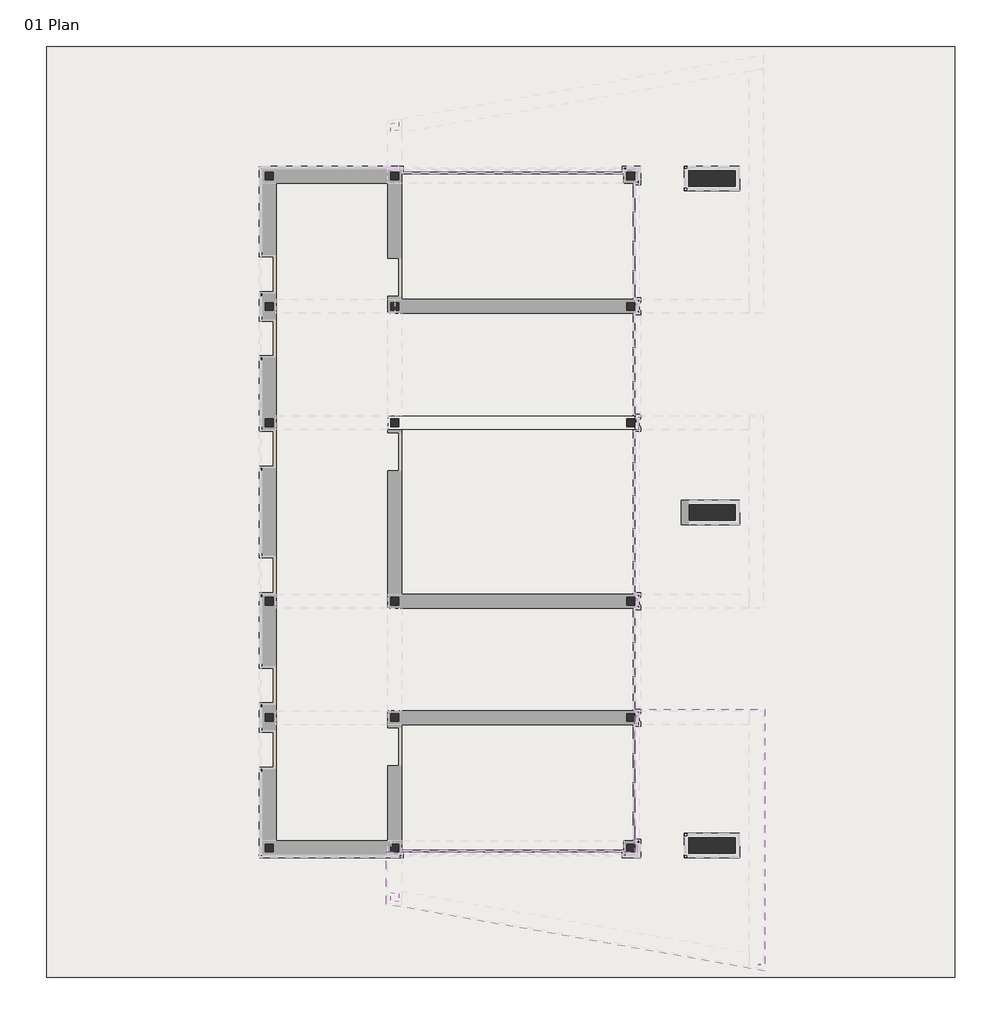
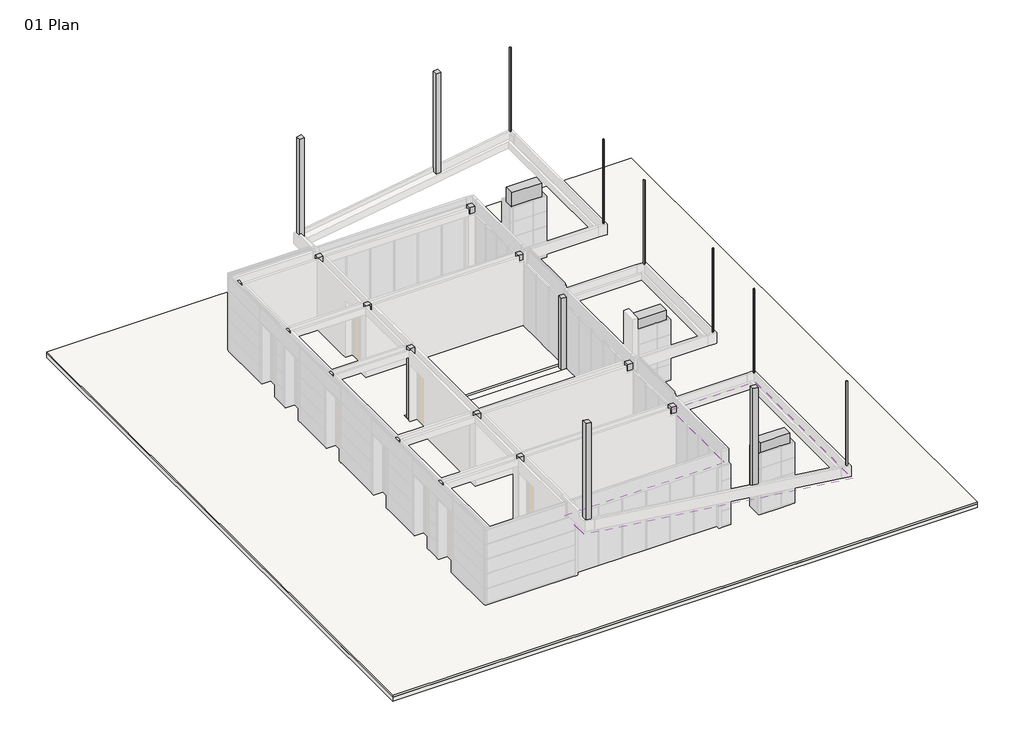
# One storey, part 5 of 5: 23 columns, 8 footings, 7 slabs, 1 covering, 1 proxy.
"""IFC4 building model written with IfcOpenShell, lengths in millimetres."""

from ifc_helpers import new_model, si_unit, frame, origin, place, context, project, spatial, polyline, outline, extrude, faceted_brep, transform, mapped, element, save
from components import generic_models_1_generic_models_1_7971c2b0, structural_columns_1_structural_columns_1_03e0f4f6, structural_columns_2_structural_columns_1_73b75508

model = new_model("IFC4")

# Units and contexts
model_context = context("Model", 3, world=origin())
ifc_project = project(units=[si_unit("LENGTHUNIT", "METRE", prefix="MILLI")], contexts=[model_context])

# Site, building, storey
site = spatial("IfcSite", under=ifc_project)
building = spatial("IfcBuilding", under=site)
storey = spatial("IfcBuildingStorey", under=building, Name="01 Plan", Elevation=-4000.0)

# Proxy
placement = place(None, origin())
generic_models_1_generic_models_1_shape = generic_models_1_generic_models_1_7971c2b0(model_context)
element("IfcBuildingElementProxy", 1, Name="Generic Models 1 : Generic Models 1", ObjectType="Generic Models 1 : Generic Models 1", at=placement, inside=storey, context=model_context, shape_type="MappedRepresentation", body=[
    mapped(generic_models_1_generic_models_1_shape, transform((0.0, 0.0, 0.0), x_axis=(1.0, 0.0, 0.0), y_axis=(0.0, 1.0, 0.0), z_axis=(0.0, 0.0, 1.0))),
])

# Columns
element("IfcColumn", 2, ObjectType="M_Concrete-Rectangular-Column : Column_Structural_Generic Showcase_250x250mm", at=placement, inside=storey, context=model_context, shape_type="Brep", body=[
    faceted_brep([(-3649.3384937, 6745.5895435, -4100.0), (-3649.3384937, 6495.5895435, -4100.0), (-3899.3384937, 6495.5895435, -4100.0), (-3899.3384937, 6745.5895435, -4100.0), (-3649.3384937, 6745.5895435, -600.0), (-3649.3384937, 6745.5895435, -300.0), (-3649.3384937, 6495.5895435, -300.0), (-3649.3384937, 6495.5895435, -600.0), (-3899.3384937, 6495.5895435, -300.0), (-3899.3384937, 6495.5895435, -600.0), (-3899.3384937, 6745.5895435, -300.0), (-3899.3384937, 6745.5895435, -600.0)], [[[0, 1, 2, 3]], [[1, 0, 4, 5, 6, 7]], [[2, 1, 7, 6, 8, 9]], [[3, 2, 9, 8, 10, 11]], [[0, 3, 11, 10, 5, 4]], [[6, 5, 10, 8]]]),
])
element("IfcColumn", 3, ObjectType="M_Concrete-Rectangular-Column : Column_Structural_Generic Showcase_250x250mm", at=placement, inside=storey, context=model_context, shape_type="Brep", body=[
    faceted_brep([(-7699.3384937, 6745.5895435, -4100.0), (-7699.3384937, 6495.5895435, -4100.0), (-7949.3384937, 6495.5895435, -4100.0), (-7949.3384937, 6745.5895435, -4100.0), (-7699.3384937, 6745.5895435, -600.0), (-7699.3384937, 6745.5895435, -300.0), (-7699.3384937, 6495.5895435, -300.0), (-7699.3384937, 6495.5895435, -600.0), (-7949.3384937, 6495.5895435, -300.0), (-7949.3384937, 6495.5895435, -600.0), (-7949.3384937, 6495.5895435, -3900.0), (-7949.3384937, 6745.5895435, -300.0), (-7949.3384937, 6745.5895435, -600.0), (-7949.3384937, 6745.5895435, -3900.0)], [[[0, 1, 2, 3]], [[1, 0, 4, 5, 6, 7]], [[2, 1, 7, 6, 8, 9, 10]], [[3, 2, 10, 9, 8, 11, 12, 13]], [[0, 3, 13, 12, 11, 5, 4]], [[6, 5, 11, 8]]]),
])
element("IfcColumn", 4, ObjectType="M_Concrete-Rectangular-Column : Column_Structural_Generic Showcase_250x250mm", at=placement, inside=storey, context=model_context, shape_type="Brep", body=[
    faceted_brep([(3950.6615063, 6745.5895435, -4100.0), (3950.6615063, 6495.5895435, -4100.0), (3700.6615063, 6495.5895435, -4100.0), (3700.6615063, 6745.5895435, -4100.0), (3950.6615063, 6745.5895435, -600.0), (3950.6615063, 6745.5895435, -300.0), (3950.6615063, 6495.5895435, -300.0), (3950.6615063, 6495.5895435, -600.0), (3700.6615063, 6495.5895435, -300.0), (3700.6615063, 6495.5895435, -600.0), (3700.6615063, 6745.5895435, -300.0), (3700.6615063, 6745.5895435, -600.0)], [[[0, 1, 2, 3]], [[1, 0, 4, 5, 6, 7]], [[2, 1, 7, 6, 8, 9]], [[3, 2, 9, 8, 10, 11]], [[0, 3, 11, 10, 5, 4]], [[6, 5, 10, 8]]]),
])
element("IfcColumn", 5, ObjectType="M_Concrete-Rectangular-Column : Column_Structural_Generic Showcase_250x250mm", at=placement, inside=storey, context=model_context, shape_type="Brep", body=[
    faceted_brep([(-3649.3384937, 10945.5895435, -4100.0), (-3649.3384937, 10695.5895435, -4100.0), (-3899.3384937, 10695.5895435, -4100.0), (-3899.3384937, 10945.5895435, -4100.0), (-3649.3384937, 10945.5895435, -3900.0), (-3649.3384937, 10945.5895435, -650.0), (-3649.3384937, 10945.5895435, -600.0), (-3649.3384937, 10945.5895435, -300.0), (-3649.3384937, 10695.5895435, -300.0), (-3649.3384937, 10695.5895435, -600.0), (-3649.3384937, 10695.5895435, -650.0), (-3899.3384937, 10695.5895435, -300.0), (-3899.3384937, 10695.5895435, -600.0), (-3899.3384937, 10695.5895435, -650.0), (-3899.3384937, 10945.5895435, -300.0), (-3899.3384937, 10945.5895435, -600.0), (-3899.3384937, 10945.5895435, -650.0), (-3899.3384937, 10945.5895435, -3900.0)], [[[0, 1, 2, 3]], [[1, 0, 4, 5, 6, 7, 8, 9, 10]], [[2, 1, 10, 9, 8, 11, 12, 13]], [[3, 2, 13, 12, 11, 14, 15, 16, 17]], [[0, 3, 17, 16, 15, 14, 7, 6, 5, 4]], [[8, 7, 14, 11]]]),
])
element("IfcColumn", 6, ObjectType="M_Concrete-Rectangular-Column : Column_Structural_Generic Showcase_250x250mm", at=placement, inside=storey, context=model_context, shape_type="Brep", body=[
    faceted_brep([(-7699.3384937, 10945.5895435, -4100.0), (-7699.3384937, 10695.5895435, -4100.0), (-7949.3384937, 10695.5895435, -4100.0), (-7949.3384937, 10945.5895435, -4100.0), (-7699.3384937, 10945.5895435, -3900.0), (-7699.3384937, 10945.5895435, -600.0), (-7699.3384937, 10945.5895435, -300.0), (-7699.3384937, 10695.5895435, -300.0), (-7699.3384937, 10695.5895435, -600.0), (-7949.3384937, 10695.5895435, -300.0), (-7949.3384937, 10695.5895435, -600.0), (-7949.3384937, 10695.5895435, -3900.0), (-7949.3384937, 10945.5895435, -300.0), (-7949.3384937, 10945.5895435, -3900.0)], [[[0, 1, 2, 3]], [[1, 0, 4, 5, 6, 7, 8]], [[2, 1, 8, 7, 9, 10, 11]], [[3, 2, 11, 10, 9, 12, 13]], [[0, 3, 13, 12, 6, 5, 4]], [[7, 6, 12, 9]]]),
])
element("IfcColumn", 7, ObjectType="M_Concrete-Rectangular-Column : Column_Structural_Generic Showcase_250x250mm", at=placement, inside=storey, context=model_context, shape_type="Brep", body=[
    faceted_brep([(3950.6615063, 10945.5895435, -4100.0), (3950.6615063, 10695.5895435, -4100.0), (3700.6615063, 10695.5895435, -4100.0), (3700.6615063, 10945.5895435, -4100.0), (3950.6615063, 10945.5895435, -4000.0), (3950.6615063, 10945.5895435, -650.0), (3950.6615063, 10945.5895435, -600.0), (3950.6615063, 10945.5895435, -300.0), (3950.6615063, 10695.5895435, -300.0), (3950.6615063, 10695.5895435, -600.0), (3950.6615063, 10695.5895435, -650.0), (3950.6615063, 10695.5895435, -4000.0), (3700.6615063, 10695.5895435, -300.0), (3700.6615063, 10695.5895435, -600.0), (3700.6615063, 10695.5895435, -650.0), (3700.6615063, 10945.5895435, -300.0), (3700.6615063, 10945.5895435, -600.0), (3700.6615063, 10945.5895435, -650.0), (3700.6615063, 10945.5895435, -4000.0)], [[[0, 1, 2, 3]], [[1, 0, 4, 5, 6, 7, 8, 9, 10, 11]], [[2, 1, 11, 10, 9, 8, 12, 13, 14]], [[3, 2, 14, 13, 12, 15, 16, 17, 18]], [[0, 3, 18, 17, 16, 15, 7, 6, 5, 4]], [[8, 7, 15, 12]]]),
])
element("IfcColumn", 8, ObjectType="M_Concrete-Rectangular-Column : Column_Structural_Generic Showcase_250x250mm", at=placement, inside=storey, context=model_context, shape_type="Brep", body=[
    faceted_brep([(-3649.3384937, 2995.5895435, -4100.0), (-3649.3384937, 2745.5895435, -4100.0), (-3899.3384937, 2745.5895435, -4100.0), (-3899.3384937, 2995.5895435, -4100.0), (-3649.3384937, 2995.5895435, -600.0), (-3649.3384937, 2995.5895435, -300.0), (-3649.3384937, 2745.5895435, -300.0), (-3649.3384937, 2745.5895435, -600.0), (-3899.3384937, 2745.5895435, -300.0), (-3899.3384937, 2745.5895435, -600.0), (-3899.3384937, 2995.5895435, -300.0), (-3899.3384937, 2995.5895435, -600.0)], [[[0, 1, 2, 3]], [[1, 0, 4, 5, 6, 7]], [[2, 1, 7, 6, 8, 9]], [[3, 2, 9, 8, 10, 11]], [[0, 3, 11, 10, 5, 4]], [[6, 5, 10, 8]]]),
])
element("IfcColumn", 9, ObjectType="M_Concrete-Rectangular-Column : Column_Structural_Generic Showcase_250x250mm", at=placement, inside=storey, context=model_context, shape_type="Brep", body=[
    faceted_brep([(-7699.3384937, 2995.5895435, -4100.0), (-7699.3384937, 2745.5895435, -4100.0), (-7949.3384937, 2745.5895435, -4100.0), (-7949.3384937, 2995.5895435, -4100.0), (-7699.3384937, 2995.5895435, -600.0), (-7699.3384937, 2995.5895435, -300.0), (-7699.3384937, 2745.5895435, -300.0), (-7699.3384937, 2745.5895435, -600.0), (-7949.3384937, 2745.5895435, -300.0), (-7949.3384937, 2745.5895435, -600.0), (-7949.3384937, 2745.5895435, -3900.0), (-7949.3384937, 2995.5895435, -300.0), (-7949.3384937, 2995.5895435, -600.0), (-7949.3384937, 2995.5895435, -3900.0)], [[[0, 1, 2, 3]], [[1, 0, 4, 5, 6, 7]], [[2, 1, 7, 6, 8, 9, 10]], [[3, 2, 10, 9, 8, 11, 12, 13]], [[0, 3, 13, 12, 11, 5, 4]], [[6, 5, 11, 8]]]),
])
element("IfcColumn", 10, ObjectType="M_Concrete-Rectangular-Column : Column_Structural_Generic Showcase_250x250mm", at=placement, inside=storey, context=model_context, shape_type="Brep", body=[
    faceted_brep([(3950.6615063, 2995.5895435, -4100.0), (3950.6615063, 2745.5895435, -4100.0), (3700.6615063, 2745.5895435, -4100.0), (3700.6615063, 2995.5895435, -4100.0), (3950.6615063, 2995.5895435, -600.0), (3950.6615063, 2995.5895435, -300.0), (3950.6615063, 2745.5895435, -300.0), (3950.6615063, 2745.5895435, -600.0), (3700.6615063, 2745.5895435, -300.0), (3700.6615063, 2745.5895435, -600.0), (3700.6615063, 2995.5895435, -300.0), (3700.6615063, 2995.5895435, -600.0)], [[[0, 1, 2, 3]], [[1, 0, 4, 5, 6, 7]], [[2, 1, 7, 6, 8, 9]], [[3, 2, 9, 8, 10, 11]], [[0, 3, 11, 10, 5, 4]], [[6, 5, 10, 8]]]),
])
element("IfcColumn", 11, ObjectType="M_Concrete-Rectangular-Column : Column_Structural_Generic Showcase_250x250mm", at=placement, inside=storey, context=model_context, shape_type="Brep", body=[
    faceted_brep([(-3649.3384937, -2754.4104565, -4100.0), (-3649.3384937, -3004.4104565, -4100.0), (-3899.3384937, -3004.4104565, -4100.0), (-3899.3384937, -2754.4104565, -4100.0), (-3649.3384937, -2754.4104565, -600.0), (-3649.3384937, -2754.4104565, -300.0), (-3649.3384937, -3004.4104565, -300.0), (-3649.3384937, -3004.4104565, -600.0), (-3899.3384937, -3004.4104565, -300.0), (-3899.3384937, -3004.4104565, -600.0), (-3899.3384937, -2754.4104565, -300.0), (-3899.3384937, -2754.4104565, -600.0)], [[[0, 1, 2, 3]], [[1, 0, 4, 5, 6, 7]], [[2, 1, 7, 6, 8, 9]], [[3, 2, 9, 8, 10, 11]], [[0, 3, 11, 10, 5, 4]], [[6, 5, 10, 8]]]),
])
element("IfcColumn", 12, ObjectType="M_Concrete-Rectangular-Column : Column_Structural_Generic Showcase_250x250mm", at=placement, inside=storey, context=model_context, shape_type="Brep", body=[
    faceted_brep([(-7699.3384937, -2754.4104565, -4100.0), (-7699.3384937, -3004.4104565, -4100.0), (-7949.3384937, -3004.4104565, -4100.0), (-7949.3384937, -2754.4104565, -4100.0), (-7699.3384937, -2754.4104565, -600.0), (-7699.3384937, -2754.4104565, -300.0), (-7699.3384937, -3004.4104565, -300.0), (-7699.3384937, -3004.4104565, -600.0), (-7949.3384937, -3004.4104565, -300.0), (-7949.3384937, -3004.4104565, -600.0), (-7949.3384937, -3004.4104565, -3900.0), (-7949.3384937, -2754.4104565, -300.0), (-7949.3384937, -2754.4104565, -600.0), (-7949.3384937, -2754.4104565, -3900.0)], [[[0, 1, 2, 3]], [[1, 0, 4, 5, 6, 7]], [[2, 1, 7, 6, 8, 9, 10]], [[3, 2, 10, 9, 8, 11, 12, 13]], [[0, 3, 13, 12, 11, 5, 4]], [[6, 5, 11, 8]]]),
])
element("IfcColumn", 13, ObjectType="M_Concrete-Rectangular-Column : Column_Structural_Generic Showcase_250x250mm", at=placement, inside=storey, context=model_context, shape_type="Brep", body=[
    faceted_brep([(3950.6615063, -2754.4104565, -4100.0), (3950.6615063, -3004.4104565, -4100.0), (3700.6615063, -3004.4104565, -4100.0), (3700.6615063, -2754.4104565, -4100.0), (3950.6615063, -2754.4104565, -650.0), (3950.6615063, -2754.4104565, -600.0), (3950.6615063, -2754.4104565, -300.0), (3950.6615063, -3004.4104565, -300.0), (3950.6615063, -3004.4104565, -600.0), (3950.6615063, -3004.4104565, -650.0), (3700.6615063, -3004.4104565, -300.0), (3700.6615063, -3004.4104565, -600.0), (3700.6615063, -3004.4104565, -650.0), (3700.6615063, -2754.4104565, -300.0), (3700.6615063, -2754.4104565, -600.0), (3700.6615063, -2754.4104565, -650.0)], [[[0, 1, 2, 3]], [[1, 0, 4, 5, 6, 7, 8, 9]], [[2, 1, 9, 8, 7, 10, 11, 12]], [[3, 2, 12, 11, 10, 13, 14, 15]], [[0, 3, 15, 14, 13, 6, 5, 4]], [[7, 6, 13, 10]]]),
])
element("IfcColumn", 14, ObjectType="M_Concrete-Rectangular-Column : Column_Structural_Generic Showcase_250x250mm", at=placement, inside=storey, context=model_context, shape_type="Brep", body=[
    faceted_brep([(-3649.3384937, -6504.4104565, -4100.0), (-3649.3384937, -6754.4104565, -4100.0), (-3899.3384937, -6754.4104565, -4100.0), (-3899.3384937, -6504.4104565, -4100.0), (-3649.3384937, -6504.4104565, -600.0), (-3649.3384937, -6504.4104565, -300.0), (-3649.3384937, -6754.4104565, -300.0), (-3649.3384937, -6754.4104565, -600.0), (-3899.3384937, -6754.4104565, -300.0), (-3899.3384937, -6754.4104565, -600.0), (-3899.3384937, -6504.4104565, -300.0), (-3899.3384937, -6504.4104565, -600.0)], [[[0, 1, 2, 3]], [[1, 0, 4, 5, 6, 7]], [[2, 1, 7, 6, 8, 9]], [[3, 2, 9, 8, 10, 11]], [[0, 3, 11, 10, 5, 4]], [[6, 5, 10, 8]]]),
])
element("IfcColumn", 15, ObjectType="M_Concrete-Rectangular-Column : Column_Structural_Generic Showcase_250x250mm", at=placement, inside=storey, context=model_context, shape_type="Brep", body=[
    faceted_brep([(-7699.3384937, -6504.4104565, -4100.0), (-7699.3384937, -6754.4104565, -4100.0), (-7949.3384937, -6754.4104565, -4100.0), (-7949.3384937, -6504.4104565, -4100.0), (-7699.3384937, -6504.4104565, -600.0), (-7699.3384937, -6504.4104565, -300.0), (-7699.3384937, -6754.4104565, -300.0), (-7699.3384937, -6754.4104565, -600.0), (-7949.3384937, -6754.4104565, -300.0), (-7949.3384937, -6754.4104565, -600.0), (-7949.3384937, -6754.4104565, -3900.0), (-7949.3384937, -6504.4104565, -300.0), (-7949.3384937, -6504.4104565, -600.0), (-7949.3384937, -6504.4104565, -3900.0)], [[[0, 1, 2, 3]], [[1, 0, 4, 5, 6, 7]], [[2, 1, 7, 6, 8, 9, 10]], [[3, 2, 10, 9, 8, 11, 12, 13]], [[0, 3, 13, 12, 11, 5, 4]], [[6, 5, 11, 8]]]),
])
element("IfcColumn", 16, ObjectType="M_Concrete-Rectangular-Column : Column_Structural_Generic Showcase_250x250mm", at=placement, inside=storey, context=model_context, shape_type="Brep", body=[
    faceted_brep([(3950.6615063, -6504.4104565, -4100.0), (3950.6615063, -6754.4104565, -4100.0), (3700.6615063, -6754.4104565, -4100.0), (3700.6615063, -6504.4104565, -4100.0), (3950.6615063, -6504.4104565, -650.0), (3950.6615063, -6504.4104565, -600.0), (3950.6615063, -6504.4104565, -300.0), (3950.6615063, -6754.4104565, -300.0), (3950.6615063, -6754.4104565, -600.0), (3950.6615063, -6754.4104565, -650.0), (3700.6615063, -6754.4104565, -300.0), (3700.6615063, -6754.4104565, -600.0), (3700.6615063, -6754.4104565, -650.0), (3700.6615063, -6504.4104565, -300.0), (3700.6615063, -6504.4104565, -600.0), (3700.6615063, -6504.4104565, -650.0)], [[[0, 1, 2, 3]], [[1, 0, 4, 5, 6, 7, 8, 9]], [[2, 1, 9, 8, 7, 10, 11, 12]], [[3, 2, 12, 11, 10, 13, 14, 15]], [[0, 3, 15, 14, 13, 6, 5, 4]], [[7, 6, 13, 10]]]),
])
element("IfcColumn", 17, ObjectType="M_Concrete-Rectangular-Column : Column_Structural_Generic Showcase_250x250mm", at=placement, inside=storey, context=model_context, shape_type="Brep", body=[
    faceted_brep([(-3649.3384937, -10704.4104565, -4100.0), (-3649.3384937, -10954.4104565, -4100.0), (-3899.3384937, -10954.4104565, -4100.0), (-3899.3384937, -10704.4104565, -4100.0), (-3649.3384937, -10704.4104565, -600.0), (-3649.3384937, -10704.4104565, -300.0), (-3649.3384937, -10954.4104565, -300.0), (-3649.3384937, -10954.4104565, -600.0), (-3649.3384937, -10954.4104565, -3900.0), (-3899.3384937, -10954.4104565, -300.0), (-3899.3384937, -10954.4104565, -600.0), (-3899.3384937, -10954.4104565, -3900.0), (-3899.3384937, -10704.4104565, -300.0), (-3899.3384937, -10704.4104565, -600.0)], [[[0, 1, 2, 3]], [[1, 0, 4, 5, 6, 7, 8]], [[2, 1, 8, 7, 6, 9, 10, 11]], [[3, 2, 11, 10, 9, 12, 13]], [[0, 3, 13, 12, 5, 4]], [[6, 5, 12, 9]]]),
])
element("IfcColumn", 18, ObjectType="M_Concrete-Rectangular-Column : Column_Structural_Generic Showcase_250x250mm", at=placement, inside=storey, context=model_context, shape_type="Brep", body=[
    faceted_brep([(-7699.3384937, -10704.4104565, -4100.0), (-7699.3384937, -10954.4104565, -4100.0), (-7949.3384937, -10954.4104565, -4100.0), (-7949.3384937, -10704.4104565, -4100.0), (-7699.3384937, -10704.4104565, -600.0), (-7699.3384937, -10704.4104565, -300.0), (-7699.3384937, -10954.4104565, -300.0), (-7699.3384937, -10954.4104565, -600.0), (-7699.3384937, -10954.4104565, -3900.0), (-7949.3384937, -10954.4104565, -300.0), (-7949.3384937, -10954.4104565, -3900.0), (-7949.3384937, -10704.4104565, -300.0), (-7949.3384937, -10704.4104565, -600.0), (-7949.3384937, -10704.4104565, -3900.0)], [[[0, 1, 2, 3]], [[1, 0, 4, 5, 6, 7, 8]], [[2, 1, 8, 7, 6, 9, 10]], [[3, 2, 10, 9, 11, 12, 13]], [[0, 3, 13, 12, 11, 5, 4]], [[6, 5, 11, 9]]]),
])
element("IfcColumn", 19, ObjectType="M_Concrete-Rectangular-Column : Column_Structural_Generic Showcase_250x250mm", at=placement, inside=storey, context=model_context, shape_type="Brep", body=[
    faceted_brep([(3950.6615063, -10704.4104565, -4100.0), (3950.6615063, -10954.4104565, -4100.0), (3700.6615063, -10954.4104565, -4100.0), (3700.6615063, -10704.4104565, -4100.0), (3950.6615063, -10704.4104565, -748.2), (3950.6615063, -10704.4104565, -698.2), (3950.6615063, -10704.4104565, -650.0), (3950.6615063, -10704.4104565, -600.0), (3950.6615063, -10704.4104565, -300.0), (3950.6615063, -10954.4104565, -300.0), (3950.6615063, -10954.4104565, -600.0), (3950.6615063, -10954.4104565, -650.0), (3950.6615063, -10954.4104565, -698.2), (3950.6615063, -10954.4104565, -748.2), (3700.6615063, -10954.4104565, -300.0), (3700.6615063, -10954.4104565, -600.0), (3700.6615063, -10954.4104565, -650.0), (3700.6615063, -10954.4104565, -698.2), (3700.6615063, -10954.4104565, -748.2), (3700.6615063, -10704.4104565, -300.0), (3700.6615063, -10704.4104565, -600.0), (3700.6615063, -10704.4104565, -650.0)], [[[0, 1, 2, 3]], [[1, 0, 4, 5, 6, 7, 8, 9, 10, 11, 12, 13]], [[2, 1, 13, 12, 11, 10, 9, 14, 15, 16, 17, 18]], [[3, 2, 18, 17, 16, 15, 14, 19, 20, 21]], [[0, 3, 21, 20, 19, 8, 7, 6, 5, 4]], [[9, 8, 19, 14]]]),
])
element("IfcColumn", 20, ObjectType="M_Concrete-Rectangular-Column : Column_Structural_Generic Showcase_1500x500mm", at=placement, inside=storey, context=model_context, shape_type="Brep", body=[
    faceted_brep([(7200.6615063, 233.0895435, -4000.0), (7200.6615063, -266.9104565, -4000.0), (5700.6615063, -266.9104565, -4000.0), (5700.6615063, 233.0895435, -4000.0), (7200.6615063, 233.0895435, -748.2), (7200.6615063, 233.0895435, -698.2), (7200.6615063, 233.0895435, -300.0), (7200.6615063, -266.9104565, -300.0), (7200.6615063, -266.9104565, -698.2), (7200.6615063, -266.9104565, -748.2), (5700.6615063, -266.9104565, -300.0), (5700.6615063, -266.9104565, -698.2), (5700.6615063, -266.9104565, -748.2), (5700.6615063, 233.0895435, -300.0), (5700.6615063, 233.0895435, -698.2), (5700.6615063, 233.0895435, -748.2)], [[[0, 1, 2, 3]], [[1, 0, 4, 5, 6, 7, 8, 9]], [[2, 1, 9, 8, 7, 10, 11, 12]], [[3, 2, 12, 11, 10, 13, 14, 15]], [[0, 3, 15, 14, 13, 6, 5, 4]], [[7, 6, 13, 10]]]),
])
element("IfcColumn", 21, ObjectType="M_Concrete-Rectangular-Column : Column_Structural_Generic Showcase_1500x500mm", at=placement, inside=storey, context=model_context, shape_type="Brep", body=[
    faceted_brep([(7200.6615063, 11000.5895435, -4000.0), (7200.6615063, 10500.5895435, -4000.0), (5700.6615063, 10500.5895435, -4000.0), (5700.6615063, 11000.5895435, -4000.0), (7200.6615063, 11000.5895435, -748.2), (7200.6615063, 11000.5895435, -698.2), (7200.6615063, 11000.5895435, -100.0), (7200.6615063, 10500.5895435, -100.0), (7200.6615063, 10500.5895435, -698.2), (7200.6615063, 10500.5895435, -748.2), (5700.6615063, 10500.5895435, -100.0), (5700.6615063, 10500.5895435, -698.2), (5700.6615063, 10500.5895435, -748.2), (5700.6615063, 11000.5895435, -100.0), (5700.6615063, 11000.5895435, -698.2), (5700.6615063, 11000.5895435, -748.2)], [[[0, 1, 2, 3]], [[1, 0, 4, 5, 6, 7, 8, 9]], [[2, 1, 9, 8, 7, 10, 11, 12]], [[3, 2, 12, 11, 10, 13, 14, 15]], [[0, 3, 15, 14, 13, 6, 5, 4]], [[7, 6, 13, 10]]]),
])
element("IfcColumn", 22, ObjectType="M_Concrete-Rectangular-Column : Column_Structural_Generic Showcase_1500x500mm", at=placement, inside=storey, context=model_context, shape_type="SweptSolid", body=[
    extrude(outline(polyline([(7200.6615063, -10504.4104565), (7200.6615063, -11004.4104565), (5700.6615063, -11004.4104565), (5700.6615063, -10504.4104565), (7200.6615063, -10504.4104565)])), frame((0.0, 0.0, -4000.0), z_axis=(0.0, 0.0, 1.0), x_axis=(1.0, 0.0, 0.0)), (0.0, 0.0, 1.0), 3700.0),
])
structural_columns_1_structural_columns_1_shape = structural_columns_1_structural_columns_1_03e0f4f6(model_context)
element("IfcColumn", 23, ObjectType="Structural Columns 1 : Structural Columns 1", at=placement, inside=storey, context=model_context, shape_type="MappedRepresentation", body=[
    mapped(structural_columns_1_structural_columns_1_shape, transform((0.0, 0.0, 0.0), x_axis=(1.0, 0.0, 0.0), y_axis=(0.0, 1.0, 0.0), z_axis=(0.0, 0.0, 1.0))),
])
structural_columns_2_structural_columns_1_shape = structural_columns_2_structural_columns_1_73b75508(model_context)
element("IfcColumn", 24, ObjectType="Structural Columns 2 : Structural Columns 1", at=placement, inside=storey, context=model_context, shape_type="MappedRepresentation", body=[
    mapped(structural_columns_2_structural_columns_1_shape, transform((0.0, 0.0, 0.0), x_axis=(1.0, 0.0, 0.0), y_axis=(0.0, 1.0, 0.0), z_axis=(0.0, 0.0, 1.0))),
])

# Covering
element("IfcCovering", 25, ObjectType="Ceiling_Exterior_Showcase Project_50mm", at=placement, inside=storey, context=model_context, shape_type="Brep", body=[
    faceted_brep([(8150.6615063, 14788.7336897, -698.2), (-4049.3384937, 12637.5445251, -698.2), (-4049.3384937, 10945.5895435, -698.2), (3950.6615063, 10945.5895435, -698.2), (3950.6615063, 6345.5895435, -698.2), (8150.6615063, 6345.5895435, -698.2), (7200.6615063, 11000.5895435, -698.2), (7200.6615063, 10500.5895435, -698.2), (5700.6615063, 10500.5895435, -698.2), (5700.6615063, 11000.5895435, -698.2), (-4049.3384937, 12637.5445251, -748.2), (8150.6615063, 14788.7336897, -748.2), (8150.6615063, 6345.5895435, -748.2), (3950.6615063, 6345.5895435, -748.2), (3950.6615063, 10945.5895435, -748.2), (-4049.3384937, 10945.5895435, -748.2), (7200.6615063, 10500.5895435, -748.2), (7200.6615063, 11000.5895435, -748.2), (5700.6615063, 11000.5895435, -748.2), (5700.6615063, 10500.5895435, -748.2)], [[[0, 1, 2, 3, 4, 5], [6, 7, 8, 9]], [[10, 11, 12, 13, 14, 15], [16, 17, 18, 19]], [[1, 0, 11, 10]], [[2, 1, 10, 15]], [[3, 2, 15, 14]], [[4, 3, 14, 13]], [[5, 4, 13, 12]], [[0, 5, 12, 11]], [[16, 7, 6, 17]], [[7, 16, 19, 8]], [[8, 19, 18, 9]], [[9, 18, 17, 6]]]),
    faceted_brep([(8150.6615063, -14797.5546027, -698.2), (8150.6615063, -6354.4104565, -698.2), (3950.6615063, -6354.4104565, -698.2), (3950.6615063, -10604.4104565, -698.2), (3950.6615063, -10704.4104565, -698.2), (3950.6615063, -10954.4104565, -698.2), (3700.6615063, -10954.4104565, -698.2), (3600.6615063, -10954.4104565, -698.2), (-4049.3384937, -10954.4104565, -698.2), (-4049.3384937, -12646.3654381, -698.2), (8150.6615063, -6354.4104565, -748.2), (8150.6615063, -14797.5546027, -748.2), (-4049.3384937, -12646.3654381, -748.2), (-4049.3384937, -10954.4104565, -748.2), (3600.6615063, -10954.4104565, -748.2), (3700.6615063, -10954.4104565, -748.2), (3950.6615063, -10954.4104565, -748.2), (3950.6615063, -10704.4104565, -748.2), (3950.6615063, -10604.4104565, -748.2), (3950.6615063, -6354.4104565, -748.2)], [[[0, 1, 2, 3, 4, 5, 6, 7, 8, 9]], [[10, 11, 12, 13, 14, 15, 16, 17, 18, 19]], [[1, 0, 11, 10]], [[2, 1, 10, 19]], [[5, 4, 3, 2, 19, 18, 17, 16]], [[8, 7, 6, 5, 16, 15, 14, 13]], [[9, 8, 13, 12]], [[0, 9, 12, 11]]]),
    faceted_brep([(3950.6615063, -3155.2115073, -698.2), (8150.6615063, -3155.2115073, -698.2), (8150.6615063, 3146.3905943, -698.2), (3950.6615063, 3146.3905943, -698.2), (7200.6615063, 233.0895435, -698.2), (7200.6615063, -266.9104565, -698.2), (5700.6615063, -266.9104565, -698.2), (5700.6615063, 233.0895435, -698.2), (8150.6615063, -3155.2115073, -748.2), (3950.6615063, -3155.2115073, -748.2), (3950.6615063, 3146.3905943, -748.2), (8150.6615063, 3146.3905943, -748.2), (7200.6615063, -266.9104565, -748.2), (7200.6615063, 233.0895435, -748.2), (5700.6615063, 233.0895435, -748.2), (5700.6615063, -266.9104565, -748.2)], [[[0, 1, 2, 3], [4, 5, 6, 7]], [[8, 9, 10, 11], [12, 13, 14, 15]], [[1, 0, 9, 8]], [[2, 1, 8, 11]], [[3, 2, 11, 10]], [[0, 3, 10, 9]], [[12, 5, 4, 13]], [[5, 12, 15, 6]], [[6, 15, 14, 7]], [[7, 14, 13, 4]]]),
])

# Footings
element("IfcFooting", 26, ObjectType="Foundation_Strip_Generic Showcase_1000x700mm", at=placement, inside=storey, context=model_context, shape_type="Brep", body=[
    faceted_brep([(4375.6615063, -10379.4104565, -4700.0), (3375.6615063, -10379.4104565, -4700.0), (-7374.3384937, -10379.4104565, -4700.0), (-8374.3384937, -10379.4104565, -4700.0), (-8374.3384937, -11379.4104565, -4700.0), (4375.6615063, -11379.4104565, -4700.0), (4375.6615063, -11379.4104565, -5400.0), (-8374.3384937, -11379.4104565, -5400.0), (4375.6615063, -10379.4104565, -5400.0), (-8374.3384937, -10379.4104565, -5400.0), (-7374.3384937, -10379.4104565, -5400.0), (3375.6615063, -10379.4104565, -5400.0)], [[[0, 1, 2, 3, 4, 5]], [[6, 5, 4, 7]], [[8, 6, 7, 9, 10, 11]], [[0, 8, 11, 10, 9, 3, 2, 1]], [[0, 5, 6, 8]], [[4, 3, 9, 7]]]),
])
element("IfcFooting", 27, ObjectType="Foundation_Strip_Generic Showcase_1000x700mm", at=placement, inside=storey, context=model_context, shape_type="Brep", body=[
    faceted_brep([(-7374.3384937, 11370.5895435, -4700.0), (-8374.3384937, 11370.5895435, -4700.0), (-8374.3384937, -10379.4104565, -4700.0), (-7374.3384937, -10379.4104565, -4700.0), (-7374.3384937, -7129.4104565, -4700.0), (-7374.3384937, -6129.4104565, -4700.0), (-7374.3384937, -3379.4104565, -4700.0), (-7374.3384937, -2379.4104565, -4700.0), (-7374.3384937, 2370.5895435, -4700.0), (-7374.3384937, 3370.5895435, -4700.0), (-7374.3384937, 6120.5895435, -4700.0), (-7374.3384937, 7120.5895435, -4700.0), (-7374.3384937, 10370.5895435, -4700.0), (-8374.3384937, 11370.5895435, -5400.0), (-8374.3384937, -10379.4104565, -5400.0), (-7374.3384937, 11370.5895435, -5400.0), (-7374.3384937, 10370.5895435, -5400.0), (-7374.3384937, 7120.5895435, -5400.0), (-7374.3384937, 6120.5895435, -5400.0), (-7374.3384937, 3370.5895435, -5400.0), (-7374.3384937, 2370.5895435, -5400.0), (-7374.3384937, -2379.4104565, -5400.0), (-7374.3384937, -3379.4104565, -5400.0), (-7374.3384937, -6129.4104565, -5400.0), (-7374.3384937, -7129.4104565, -5400.0), (-7374.3384937, -10379.4104565, -5400.0)], [[[0, 1, 2, 3, 4, 5, 6, 7, 8, 9, 10, 11, 12]], [[1, 13, 14, 2]], [[13, 15, 16, 17, 18, 19, 20, 21, 22, 23, 24, 25, 14]], [[15, 0, 12, 11, 10, 9, 8, 7, 6, 5, 4, 3, 25, 24, 23, 22, 21, 20, 19, 18, 17, 16]], [[3, 2, 14, 25]], [[1, 0, 15, 13]]]),
])
element("IfcFooting", 28, ObjectType="Foundation_Strip_Generic Showcase_1000x700mm", at=placement, inside=storey, context=model_context, shape_type="SweptSolid", body=[
    extrude(outline(polyline([(-7374.3384937, -3379.4104565), (-7374.3384937, -2379.4104565), (3375.6615063, -2379.4104565), (3375.6615063, -3379.4104565), (-7374.3384937, -3379.4104565)])), frame((0.0, 0.0, -5400.0), z_axis=(0.0, 0.0, 1.0), x_axis=(1.0, 0.0, 0.0)), (0.0, 0.0, 1.0), 700.0),
])
element("IfcFooting", 29, ObjectType="Foundation_Strip_Generic Showcase_1000x700mm", at=placement, inside=storey, context=model_context, shape_type="SweptSolid", body=[
    extrude(outline(polyline([(-7374.3384937, 2370.5895435), (-7374.3384937, 3370.5895435), (3375.6615063, 3370.5895435), (3375.6615063, 2370.5895435), (-7374.3384937, 2370.5895435)])), frame((0.0, 0.0, -5400.0), z_axis=(0.0, 0.0, 1.0), x_axis=(1.0, 0.0, 0.0)), (0.0, 0.0, 1.0), 700.0),
])
element("IfcFooting", 30, ObjectType="Foundation_Strip_Generic Showcase_1000x700mm", at=placement, inside=storey, context=model_context, shape_type="Brep", body=[
    faceted_brep([(4375.6615063, 10370.5895435, -4700.0), (4375.6615063, 11370.5895435, -4700.0), (-7374.3384937, 11370.5895435, -4700.0), (-7374.3384937, 10370.5895435, -4700.0), (3375.6615063, 10370.5895435, -4700.0), (4375.6615063, 11370.5895435, -5400.0), (-7374.3384937, 11370.5895435, -5400.0), (4375.6615063, 10370.5895435, -5400.0), (3375.6615063, 10370.5895435, -5400.0), (-7374.3384937, 10370.5895435, -5400.0)], [[[0, 1, 2, 3, 4]], [[1, 5, 6, 2]], [[5, 7, 8, 9, 6]], [[7, 0, 4, 3, 9, 8]], [[1, 0, 7, 5]], [[3, 2, 6, 9]]]),
])
element("IfcFooting", 31, ObjectType="Foundation_Strip_Generic Showcase_1000x700mm", at=placement, inside=storey, context=model_context, shape_type="Brep", body=[
    faceted_brep([(3375.6615063, -10379.4104565, -4700.0), (4375.6615063, -10379.4104565, -4700.0), (4375.6615063, 10370.5895435, -4700.0), (3375.6615063, 10370.5895435, -4700.0), (3375.6615063, 7120.5895435, -4700.0), (3375.6615063, 6120.5895435, -4700.0), (3375.6615063, 3370.5895435, -4700.0), (3375.6615063, 2370.5895435, -4700.0), (3375.6615063, -2379.4104565, -4700.0), (3375.6615063, -3379.4104565, -4700.0), (3375.6615063, -6129.4104565, -4700.0), (3375.6615063, -7129.4104565, -4700.0), (4375.6615063, -10379.4104565, -5400.0), (4375.6615063, 10370.5895435, -5400.0), (3375.6615063, -10379.4104565, -5400.0), (3375.6615063, -7129.4104565, -5400.0), (3375.6615063, -6129.4104565, -5400.0), (3375.6615063, -3379.4104565, -5400.0), (3375.6615063, -2379.4104565, -5400.0), (3375.6615063, 2370.5895435, -5400.0), (3375.6615063, 3370.5895435, -5400.0), (3375.6615063, 6120.5895435, -5400.0), (3375.6615063, 7120.5895435, -5400.0), (3375.6615063, 10370.5895435, -5400.0)], [[[0, 1, 2, 3, 4, 5, 6, 7, 8, 9, 10, 11]], [[1, 12, 13, 2]], [[12, 14, 15, 16, 17, 18, 19, 20, 21, 22, 23, 13]], [[14, 0, 11, 10, 9, 8, 7, 6, 5, 4, 3, 23, 22, 21, 20, 19, 18, 17, 16, 15]], [[1, 0, 14, 12]], [[3, 2, 13, 23]]]),
])
element("IfcFooting", 32, ObjectType="Foundation_Strip_Generic Showcase_1000x700mm", at=placement, inside=storey, context=model_context, shape_type="SweptSolid", body=[
    extrude(outline(polyline([(-7374.3384937, -7129.4104565), (-7374.3384937, -6129.4104565), (3375.6615063, -6129.4104565), (3375.6615063, -7129.4104565), (-7374.3384937, -7129.4104565)])), frame((0.0, 0.0, -5400.0), z_axis=(0.0, 0.0, 1.0), x_axis=(1.0, 0.0, 0.0)), (0.0, 0.0, 1.0), 700.0),
])
element("IfcFooting", 33, ObjectType="Foundation_Strip_Generic Showcase_1000x700mm", at=placement, inside=storey, context=model_context, shape_type="SweptSolid", body=[
    extrude(outline(polyline([(-7374.3384937, 6120.5895435), (-7374.3384937, 7120.5895435), (3375.6615063, 7120.5895435), (3375.6615063, 6120.5895435), (-7374.3384937, 6120.5895435)])), frame((0.0, 0.0, -5400.0), z_axis=(0.0, 0.0, 1.0), x_axis=(1.0, 0.0, 0.0)), (0.0, 0.0, 1.0), 700.0),
])

# Slabs
element("IfcSlab", 34, ObjectType="Floor_Structural_Generic Showcase_200mm", at=placement, inside=storey, context=model_context, shape_type="Brep", body=[
    faceted_brep([(-8049.3384937, -11054.4104565, -4300.0), (-8049.3384937, 11045.5895435, -4300.0), (3950.6615063, 11045.5895435, -4300.0), (3950.6615063, -11054.4104565, -4300.0), (-8049.3384937, -11054.4104565, -4100.0), (3950.6615063, -11054.4104565, -4100.0), (3950.6615063, -10954.4104565, -4100.0), (3950.6615063, -10704.4104565, -4100.0), (3950.6615063, -6754.4104565, -4100.0), (3950.6615063, -6504.4104565, -4100.0), (3950.6615063, -3004.4104565, -4100.0), (3950.6615063, -2754.4104565, -4100.0), (3950.6615063, 2745.5895435, -4100.0), (3950.6615063, 2995.5895435, -4100.0), (3950.6615063, 6495.5895435, -4100.0), (3950.6615063, 6745.5895435, -4100.0), (3950.6615063, 10595.5895435, -4100.0), (3950.6615063, 10695.5895435, -4100.0), (3950.6615063, 10945.5895435, -4100.0), (3950.6615063, 11045.5895435, -4100.0), (-8049.3384937, 11045.5895435, -4100.0)], [[[0, 1, 2, 3]], [[4, 5, 6, 7, 8, 9, 10, 11, 12, 13, 14, 15, 16, 17, 18, 19, 20]], [[1, 0, 4, 20]], [[2, 1, 20, 19]], [[3, 2, 19, 18, 17, 16, 15, 14, 13, 12, 11, 10, 9, 8, 7, 6, 5]], [[0, 3, 5, 4]]]),
])
element("IfcSlab", 35, ObjectType="Floor_Structural_Generic Showcase_200mm", at=placement, inside=storey, context=model_context, shape_type="Brep", body=[
    faceted_brep([(14275.6615063, 14995.5895435, -4300.0), (14275.6615063, -15004.4104565, -4300.0), (-14999.3384937, -15004.4104565, -4300.0), (-14999.3384937, 14995.5895435, -4300.0), (-8049.3384937, -11054.4104565, -4300.0), (3950.6615063, -11054.4104565, -4300.0), (3950.6615063, 11045.5895435, -4300.0), (-8049.3384937, 11045.5895435, -4300.0), (14275.6615063, -15004.4104565, -4100.0), (14275.6615063, 14995.5895435, -4100.0), (-14999.3384937, 14995.5895435, -4100.0), (-14999.3384937, -15004.4104565, -4100.0), (3950.6615063, -11054.4104565, -4100.0), (-8049.3384937, -11054.4104565, -4100.0), (-8049.3384937, 11045.5895435, -4100.0), (3950.6615063, 11045.5895435, -4100.0), (3950.6615063, 10945.5895435, -4100.0), (3950.6615063, -10704.4104565, -4100.0), (3950.6615063, -10954.4104565, -4100.0)], [[[0, 1, 2, 3], [4, 5, 6, 7]], [[8, 9, 10, 11], [12, 13, 14, 15, 16, 17, 18]], [[5, 4, 13, 12]], [[6, 5, 12, 18, 17, 16, 15]], [[7, 6, 15, 14]], [[4, 7, 14, 13]], [[1, 0, 9, 8]], [[2, 1, 8, 11]], [[3, 2, 11, 10]], [[0, 3, 10, 9]]]),
])
element("IfcSlab", 36, ObjectType="Floor_Layers_Generic Showcase_100mm", at=placement, inside=storey, context=model_context, shape_type="SweptSolid", body=[
    extrude(outline(polyline([(-3549.3384937, 6845.5895435), (-3549.3384937, 10895.5895435), (3600.6615063, 10895.5895435), (3600.6615063, 10595.5895435), (3900.6615063, 10595.5895435), (3900.6615063, 6845.5895435), (-3549.3384937, 6845.5895435)])), frame((0.0, 0.0, -4100.0), z_axis=(0.0, 0.0, 1.0), x_axis=(1.0, 0.0, 0.0)), (0.0, 0.0, 1.0), 100.0),
])
element("IfcSlab", 37, ObjectType="Floor_Layers_Generic Showcase_100mm", at=placement, inside=storey, context=model_context, shape_type="SweptSolid", body=[
    extrude(outline(polyline([(3900.6615063, 2645.5895435), (3900.6615063, -2654.4104565), (-3549.3384937, -2654.4104565), (-3549.3384937, 2645.5895435), (3900.6615063, 2645.5895435)])), frame((0.0, 0.0, -4100.0), z_axis=(0.0, 0.0, 1.0), x_axis=(1.0, 0.0, 0.0)), (0.0, 0.0, 1.0), 100.0),
])
element("IfcSlab", 38, ObjectType="Floor_Layers_Generic Showcase_100mm", at=placement, inside=storey, context=model_context, shape_type="SweptSolid", body=[
    extrude(outline(polyline([(3900.6615063, -6854.4104565), (3900.6615063, -10604.4104565), (3600.6615063, -10604.4104565), (3600.6615063, -10904.4104565), (-3549.3384937, -10904.4104565), (-3549.3384937, -6854.4104565), (3900.6615063, -6854.4104565)])), frame((0.0, 0.0, -4100.0), z_axis=(0.0, 0.0, 1.0), x_axis=(1.0, 0.0, 0.0)), (0.0, 0.0, 1.0), 100.0),
])
element("IfcSlab", 39, ObjectType="Floor_Layers_Generic Showcase_100mm", at=placement, inside=storey, context=model_context, shape_type="Brep", body=[
    faceted_brep([(-3999.3384937, 10595.5895435, -4100.0), (-3999.3384937, 8165.5895435, -4100.0), (-3549.3384937, 8165.5895435, -4100.0), (-3549.3384937, 6945.5895435, -4100.0), (-3999.3384937, 6945.5895435, -4100.0), (-3999.3384937, 6845.5895435, -4100.0), (-3999.3384937, 6395.5895435, -4100.0), (3900.6615063, 6395.5895435, -4100.0), (3900.6615063, 3095.5895435, -4100.0), (-3999.3384937, 3095.5895435, -4100.0), (-3999.3384937, 2645.5895435, -4100.0), (-3999.3384937, 2545.5895435, -4100.0), (-3549.3384937, 2545.5895435, -4100.0), (-3549.3384937, 1325.5895435, -4100.0), (-3999.3384937, 1325.5895435, -4100.0), (-3999.3384937, -2654.4104565, -4100.0), (-3999.3384937, -3104.4104565, -4100.0), (3900.6615063, -3104.4104565, -4100.0), (3900.6615063, -6404.4104565, -4100.0), (-3999.3384937, -6404.4104565, -4100.0), (-3999.3384937, -6854.4104565, -4100.0), (-3999.3384937, -6954.4104565, -4100.0), (-3549.3384937, -6954.4104565, -4100.0), (-3549.3384937, -8174.4104565, -4100.0), (-3999.3384937, -8174.4104565, -4100.0), (-3999.3384937, -10604.4104565, -4100.0), (-7599.3384937, -10604.4104565, -4100.0), (-7599.3384937, -8274.4104565, -4100.0), (-7599.3384937, -7054.4104565, -4100.0), (-7599.3384937, -6204.4104565, -4100.0), (-7599.3384937, -4984.4104565, -4100.0), (-7599.3384937, -2654.4104565, -4100.0), (-7599.3384937, -1434.4104565, -4100.0), (-7599.3384937, 1425.5895435, -4100.0), (-7599.3384937, 2645.5895435, -4100.0), (-7599.3384937, 4975.5895435, -4100.0), (-7599.3384937, 6195.5895435, -4100.0), (-7599.3384937, 7045.5895435, -4100.0), (-7599.3384937, 8265.5895435, -4100.0), (-7599.3384937, 10595.5895435, -4100.0), (-3999.3384937, 8165.5895435, -4000.0), (-3999.3384937, 10595.5895435, -4000.0), (-7599.3384937, 10595.5895435, -4000.0), (-7599.3384937, 8265.5895435, -4000.0), (-7599.3384937, 7045.5895435, -4000.0), (-7599.3384937, 6195.5895435, -4000.0), (-7599.3384937, 4975.5895435, -4000.0), (-7599.3384937, 2645.5895435, -4000.0), (-7599.3384937, 1425.5895435, -4000.0), (-7599.3384937, -1434.4104565, -4000.0), (-7599.3384937, -2654.4104565, -4000.0), (-7599.3384937, -4984.4104565, -4000.0), (-7599.3384937, -6204.4104565, -4000.0), (-7599.3384937, -7054.4104565, -4000.0), (-7599.3384937, -8274.4104565, -4000.0), (-7599.3384937, -10604.4104565, -4000.0), (-3999.3384937, -10604.4104565, -4000.0), (-3999.3384937, -8174.4104565, -4000.0), (-3549.3384937, -8174.4104565, -4000.0), (-3549.3384937, -6954.4104565, -4000.0), (-3999.3384937, -6954.4104565, -4000.0), (-3999.3384937, -6404.4104565, -4000.0), (3900.6615063, -6404.4104565, -4000.0), (3900.6615063, -3104.4104565, -4000.0), (-3999.3384937, -3104.4104565, -4000.0), (-3999.3384937, 1325.5895435, -4000.0), (-3549.3384937, 1325.5895435, -4000.0), (-3549.3384937, 2545.5895435, -4000.0), (-3999.3384937, 2545.5895435, -4000.0), (-3999.3384937, 3095.5895435, -4000.0), (3900.6615063, 3095.5895435, -4000.0), (3900.6615063, 6395.5895435, -4000.0), (-3999.3384937, 6395.5895435, -4000.0), (-3999.3384937, 6945.5895435, -4000.0), (-3549.3384937, 6945.5895435, -4000.0), (-3549.3384937, 8165.5895435, -4000.0)], [[[0, 1, 2, 3, 4, 5, 6, 7, 8, 9, 10, 11, 12, 13, 14, 15, 16, 17, 18, 19, 20, 21, 22, 23, 24, 25, 26, 27, 28, 29, 30, 31, 32, 33, 34, 35, 36, 37, 38, 39]], [[40, 41, 42, 43, 44, 45, 46, 47, 48, 49, 50, 51, 52, 53, 54, 55, 56, 57, 58, 59, 60, 61, 62, 63, 64, 65, 66, 67, 68, 69, 70, 71, 72, 73, 74, 75]], [[1, 0, 41, 40]], [[7, 6, 72, 71]], [[8, 7, 71, 70]], [[9, 8, 70, 69]], [[11, 10, 9, 69, 68]], [[17, 16, 64, 63]], [[18, 17, 63, 62]], [[19, 18, 62, 61]], [[21, 20, 19, 61, 60]], [[26, 25, 56, 55]], [[26, 55, 54, 53, 52, 51, 50, 49, 48, 47, 46, 45, 44, 43, 42, 39, 38, 37, 36, 35, 34, 33, 32, 31, 30, 29, 28, 27]], [[0, 39, 42, 41]], [[2, 1, 40, 75]], [[3, 2, 75, 74]], [[4, 3, 74, 73]], [[6, 5, 4, 73, 72]], [[22, 21, 60, 59]], [[23, 22, 59, 58]], [[24, 23, 58, 57]], [[25, 24, 57, 56]], [[12, 11, 68, 67]], [[13, 12, 67, 66]], [[14, 13, 66, 65]], [[16, 15, 14, 65, 64]]]),
])
element("IfcSlab", 40, ObjectType="Floor_Layers_Generic Showcase_100mm", at=placement, inside=storey, context=model_context, shape_type="Brep", body=[
    faceted_brep([(14275.6615063, 14995.5895435, -4100.0), (14275.6615063, -15004.4104565, -4100.0), (-14999.3384937, -15004.4104565, -4100.0), (-14999.3384937, 14995.5895435, -4100.0), (-7949.3384937, 8265.5895435, -4100.0), (-7599.3384937, 8265.5895435, -4100.0), (-7599.3384937, 7045.5895435, -4100.0), (-7949.3384937, 7045.5895435, -4100.0), (-7949.3384937, 6745.5895435, -4100.0), (-7949.3384937, 6495.5895435, -4100.0), (-7949.3384937, 6195.5895435, -4100.0), (-7699.3384937, 6195.5895435, -4100.0), (-7599.3384937, 6195.5895435, -4100.0), (-7599.3384937, 4975.5895435, -4100.0), (-7949.3384937, 4975.5895435, -4100.0), (-7949.3384937, 2995.5895435, -4100.0), (-7949.3384937, 2745.5895435, -4100.0), (-7949.3384937, 2645.5895435, -4100.0), (-7699.3384937, 2645.5895435, -4100.0), (-7599.3384937, 2645.5895435, -4100.0), (-7599.3384937, 1425.5895435, -4100.0), (-7949.3384937, 1425.5895435, -4100.0), (-7949.3384937, -1434.4104565, -4100.0), (-7599.3384937, -1434.4104565, -4100.0), (-7599.3384937, -2654.4104565, -4100.0), (-7949.3384937, -2654.4104565, -4100.0), (-7949.3384937, -2754.4104565, -4100.0), (-7949.3384937, -3004.4104565, -4100.0), (-7949.3384937, -4324.4104565, -4100.0), (-7949.3384937, -4984.4104565, -4100.0), (-7599.3384937, -4984.4104565, -4100.0), (-7599.3384937, -6204.4104565, -4100.0), (-7949.3384937, -6204.4104565, -4100.0), (-7949.3384937, -6504.4104565, -4100.0), (-7949.3384937, -6754.4104565, -4100.0), (-7949.3384937, -7054.4104565, -4100.0), (-7699.3384937, -7054.4104565, -4100.0), (-7599.3384937, -7054.4104565, -4100.0), (-7599.3384937, -8274.4104565, -4100.0), (-7949.3384937, -8274.4104565, -4100.0), (-7949.3384937, -10604.4104565, -4100.0), (-7949.3384937, -10954.4104565, -4100.0), (3950.6615063, -10954.4104565, -4100.0), (3950.6615063, 10595.5895435, -4100.0), (3950.6615063, 10695.5895435, -4100.0), (3950.6615063, 10945.5895435, -4100.0), (3700.6615063, 10945.5895435, -4100.0), (3600.6615063, 10945.5895435, -4100.0), (-7949.3384937, 10945.5895435, -4100.0), (-7949.3384937, 10595.5895435, -4100.0), (14275.6615063, 14995.5895435, -4000.0), (-14999.3384937, 14995.5895435, -4000.0), (-14999.3384937, -15004.4104565, -4000.0), (14275.6615063, -15004.4104565, -4000.0), (-7949.3384937, 8265.5895435, -4000.0), (-7949.3384937, 10945.5895435, -4000.0), (3600.6615063, 10945.5895435, -4000.0), (3700.6615063, 10945.5895435, -4000.0), (3950.6615063, 10945.5895435, -4000.0), (3950.6615063, 10695.5895435, -4000.0), (3950.6615063, 10595.5895435, -4000.0), (3950.6615063, -10954.4104565, -4000.0), (-7949.3384937, -10954.4104565, -4000.0), (-7949.3384937, -8274.4104565, -4000.0), (-7599.3384937, -8274.4104565, -4000.0), (-7599.3384937, -7054.4104565, -4000.0), (-7699.3384937, -7054.4104565, -4000.0), (-7949.3384937, -7054.4104565, -4000.0), (-7949.3384937, -6204.4104565, -4000.0), (-7599.3384937, -6204.4104565, -4000.0), (-7599.3384937, -4984.4104565, -4000.0), (-7949.3384937, -4984.4104565, -4000.0), (-7949.3384937, -4324.4104565, -4000.0), (-7949.3384937, -2654.4104565, -4000.0), (-7599.3384937, -2654.4104565, -4000.0), (-7599.3384937, -1434.4104565, -4000.0), (-7949.3384937, -1434.4104565, -4000.0), (-7949.3384937, 1425.5895435, -4000.0), (-7599.3384937, 1425.5895435, -4000.0), (-7599.3384937, 2645.5895435, -4000.0), (-7699.3384937, 2645.5895435, -4000.0), (-7949.3384937, 2645.5895435, -4000.0), (-7949.3384937, 4975.5895435, -4000.0), (-7599.3384937, 4975.5895435, -4000.0), (-7599.3384937, 6195.5895435, -4000.0), (-7699.3384937, 6195.5895435, -4000.0), (-7949.3384937, 6195.5895435, -4000.0), (-7949.3384937, 7045.5895435, -4000.0), (-7599.3384937, 7045.5895435, -4000.0), (-7599.3384937, 8265.5895435, -4000.0)], [[[0, 1, 2, 3], [4, 5, 6, 7, 8, 9, 10, 11, 12, 13, 14, 15, 16, 17, 18, 19, 20, 21, 22, 23, 24, 25, 26, 27, 28, 29, 30, 31, 32, 33, 34, 35, 36, 37, 38, 39, 40, 41, 42, 43, 44, 45, 46, 47, 48, 49]], [[50, 51, 52, 53], [54, 55, 56, 57, 58, 59, 60, 61, 62, 63, 64, 65, 66, 67, 68, 69, 70, 71, 72, 73, 74, 75, 76, 77, 78, 79, 80, 81, 82, 83, 84, 85, 86, 87, 88, 89]], [[1, 0, 50, 53]], [[2, 1, 53, 52]], [[3, 2, 52, 51]], [[0, 3, 51, 50]], [[5, 4, 54, 89]], [[6, 5, 89, 88]], [[7, 6, 88, 87]], [[10, 9, 8, 7, 87, 86]], [[11, 10, 86, 85]], [[12, 11, 85, 84]], [[13, 12, 84, 83]], [[14, 13, 83, 82]], [[17, 16, 15, 14, 82, 81]], [[18, 17, 81, 80]], [[19, 18, 80, 79]], [[20, 19, 79, 78]], [[21, 20, 78, 77]], [[22, 21, 77, 76]], [[23, 22, 76, 75]], [[24, 23, 75, 74]], [[25, 24, 74, 73]], [[28, 27, 26, 25, 73, 72]], [[29, 28, 72, 71]], [[30, 29, 71, 70]], [[31, 30, 70, 69]], [[32, 31, 69, 68]], [[35, 34, 33, 32, 68, 67]], [[36, 35, 67, 66]], [[37, 36, 66, 65]], [[38, 37, 65, 64]], [[39, 38, 64, 63]], [[41, 40, 39, 63, 62]], [[42, 41, 62, 61]], [[45, 44, 43, 42, 61, 60, 59, 58]], [[48, 47, 46, 45, 58, 57, 56, 55]], [[4, 49, 48, 55, 54]]]),
])

save(model, "model.ifc")
